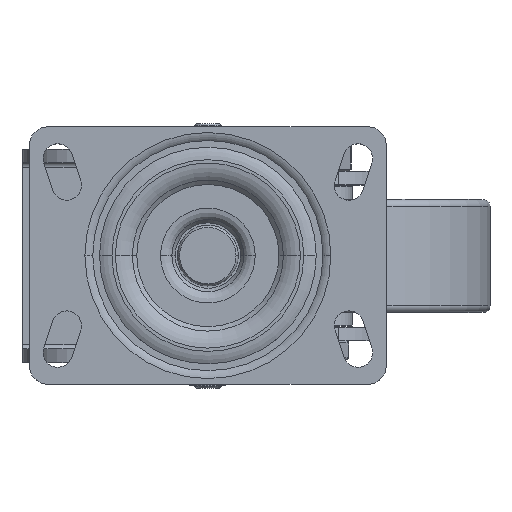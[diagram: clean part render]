
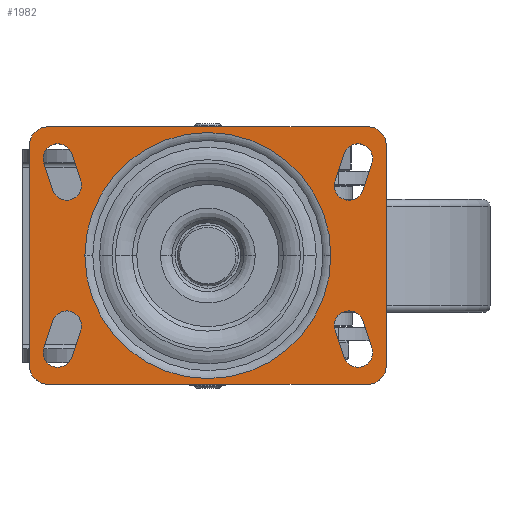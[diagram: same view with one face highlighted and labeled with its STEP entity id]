
A CAD part, top view. The second image highlights one B-rep face of the part: STEP entity #1982.
In plain terms, the highlighted planar face has unit normal (0, 0, 1).
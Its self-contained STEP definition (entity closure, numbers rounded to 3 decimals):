
#1147=PLANE('',#16140);
#1273=FACE_BOUND('',#4069,.T.);
#1274=FACE_BOUND('',#4070,.T.);
#1275=FACE_BOUND('',#4071,.T.);
#1276=FACE_BOUND('',#4072,.T.);
#1277=FACE_BOUND('',#4073,.T.);
#1278=FACE_BOUND('',#4074,.T.);
#1982=ADVANCED_FACE('',(#1273,#1274,#1275,#1276,#1277,#1278),#1147,.T.);
#4069=EDGE_LOOP('',(#8425,#8426,#8427,#8428,#8429,#8430,#8431,#8432));
#4070=EDGE_LOOP('',(#8433,#8434));
#4071=EDGE_LOOP('',(#8435,#8436,#8437,#8438));
#4072=EDGE_LOOP('',(#8439,#8440,#8441,#8442));
#4073=EDGE_LOOP('',(#8443,#8444,#8445,#8446));
#4074=EDGE_LOOP('',(#8447,#8448,#8449,#8450));
#4899=CIRCLE('',#16125,8.);
#4900=CIRCLE('',#16127,8.);
#4901=CIRCLE('',#16128,8.);
#4902=CIRCLE('',#16129,8.);
#4903=CIRCLE('',#16130,54.5);
#4904=CIRCLE('',#16131,54.5);
#4905=CIRCLE('',#16132,6.5);
#4906=CIRCLE('',#16133,6.5);
#4907=CIRCLE('',#16134,6.5);
#4908=CIRCLE('',#16135,6.5);
#4909=CIRCLE('',#16136,6.5);
#4910=CIRCLE('',#16137,6.5);
#4911=CIRCLE('',#16138,6.5);
#4912=CIRCLE('',#16139,6.5);
#8425=ORIENTED_EDGE('',*,*,#12536,.F.);
#8426=ORIENTED_EDGE('',*,*,#12537,.T.);
#8427=ORIENTED_EDGE('',*,*,#12538,.F.);
#8428=ORIENTED_EDGE('',*,*,#12539,.T.);
#8429=ORIENTED_EDGE('',*,*,#12540,.F.);
#8430=ORIENTED_EDGE('',*,*,#12541,.T.);
#8431=ORIENTED_EDGE('',*,*,#12542,.F.);
#8432=ORIENTED_EDGE('',*,*,#12535,.T.);
#8433=ORIENTED_EDGE('',*,*,#12543,.T.);
#8434=ORIENTED_EDGE('',*,*,#12544,.F.);
#8435=ORIENTED_EDGE('',*,*,#12545,.F.);
#8436=ORIENTED_EDGE('',*,*,#12546,.F.);
#8437=ORIENTED_EDGE('',*,*,#12547,.F.);
#8438=ORIENTED_EDGE('',*,*,#12548,.F.);
#8439=ORIENTED_EDGE('',*,*,#12549,.F.);
#8440=ORIENTED_EDGE('',*,*,#12550,.F.);
#8441=ORIENTED_EDGE('',*,*,#12551,.F.);
#8442=ORIENTED_EDGE('',*,*,#12552,.F.);
#8443=ORIENTED_EDGE('',*,*,#12553,.F.);
#8444=ORIENTED_EDGE('',*,*,#12554,.F.);
#8445=ORIENTED_EDGE('',*,*,#12555,.F.);
#8446=ORIENTED_EDGE('',*,*,#12556,.F.);
#8447=ORIENTED_EDGE('',*,*,#12557,.F.);
#8448=ORIENTED_EDGE('',*,*,#12558,.F.);
#8449=ORIENTED_EDGE('',*,*,#12559,.F.);
#8450=ORIENTED_EDGE('',*,*,#12560,.F.);
#10537=VERTEX_POINT('',#29809);
#10538=VERTEX_POINT('',#29811);
#10539=VERTEX_POINT('',#29815);
#10540=VERTEX_POINT('',#29817);
#10541=VERTEX_POINT('',#29819);
#10542=VERTEX_POINT('',#29821);
#10543=VERTEX_POINT('',#29823);
#10544=VERTEX_POINT('',#29825);
#10545=VERTEX_POINT('',#29828);
#10546=VERTEX_POINT('',#29829);
#10547=VERTEX_POINT('',#29832);
#10548=VERTEX_POINT('',#29833);
#10549=VERTEX_POINT('',#29835);
#10550=VERTEX_POINT('',#29837);
#10551=VERTEX_POINT('',#29840);
#10552=VERTEX_POINT('',#29841);
#10553=VERTEX_POINT('',#29843);
#10554=VERTEX_POINT('',#29845);
#10555=VERTEX_POINT('',#29848);
#10556=VERTEX_POINT('',#29849);
#10557=VERTEX_POINT('',#29851);
#10558=VERTEX_POINT('',#29853);
#10559=VERTEX_POINT('',#29856);
#10560=VERTEX_POINT('',#29857);
#10561=VERTEX_POINT('',#29859);
#10562=VERTEX_POINT('',#29861);
#12535=EDGE_CURVE('',#10537,#10538,#4899,.T.);
#12536=EDGE_CURVE('',#10539,#10538,#13860,.T.);
#12537=EDGE_CURVE('',#10539,#10540,#4900,.T.);
#12538=EDGE_CURVE('',#10541,#10540,#13861,.T.);
#12539=EDGE_CURVE('',#10541,#10542,#4901,.T.);
#12540=EDGE_CURVE('',#10543,#10542,#13862,.T.);
#12541=EDGE_CURVE('',#10543,#10544,#4902,.T.);
#12542=EDGE_CURVE('',#10537,#10544,#13863,.T.);
#12543=EDGE_CURVE('',#10545,#10546,#4903,.T.);
#12544=EDGE_CURVE('',#10545,#10546,#4904,.T.);
#12545=EDGE_CURVE('',#10547,#10548,#4905,.T.);
#12546=EDGE_CURVE('',#10549,#10547,#13864,.T.);
#12547=EDGE_CURVE('',#10550,#10549,#4906,.T.);
#12548=EDGE_CURVE('',#10548,#10550,#13865,.T.);
#12549=EDGE_CURVE('',#10551,#10552,#13866,.T.);
#12550=EDGE_CURVE('',#10553,#10551,#4907,.T.);
#12551=EDGE_CURVE('',#10554,#10553,#13867,.T.);
#12552=EDGE_CURVE('',#10552,#10554,#4908,.T.);
#12553=EDGE_CURVE('',#10555,#10556,#13868,.T.);
#12554=EDGE_CURVE('',#10557,#10555,#4909,.T.);
#12555=EDGE_CURVE('',#10558,#10557,#13869,.T.);
#12556=EDGE_CURVE('',#10556,#10558,#4910,.T.);
#12557=EDGE_CURVE('',#10559,#10560,#4911,.T.);
#12558=EDGE_CURVE('',#10561,#10559,#13870,.T.);
#12559=EDGE_CURVE('',#10562,#10561,#4912,.T.);
#12560=EDGE_CURVE('',#10560,#10562,#13871,.T.);
#13860=LINE('',#29814,#14799);
#13861=LINE('',#29818,#14800);
#13862=LINE('',#29822,#14801);
#13863=LINE('',#29826,#14802);
#13864=LINE('',#29834,#14803);
#13865=LINE('',#29838,#14804);
#13866=LINE('',#29839,#14805);
#13867=LINE('',#29844,#14806);
#13868=LINE('',#29847,#14807);
#13869=LINE('',#29852,#14808);
#13870=LINE('',#29858,#14809);
#13871=LINE('',#29862,#14810);
#14799=VECTOR('',#19665,1.);
#14800=VECTOR('',#19668,1.);
#14801=VECTOR('',#19671,1.);
#14802=VECTOR('',#19674,1.);
#14803=VECTOR('',#19681,1.);
#14804=VECTOR('',#19684,1.);
#14805=VECTOR('',#19685,1.);
#14806=VECTOR('',#19688,1.);
#14807=VECTOR('',#19691,1.);
#14808=VECTOR('',#19694,1.);
#14809=VECTOR('',#19699,1.);
#14810=VECTOR('',#19702,1.);
#16125=AXIS2_PLACEMENT_3D('',#29812,#19661,#19662);
#16127=AXIS2_PLACEMENT_3D('',#29816,#19666,#19667);
#16128=AXIS2_PLACEMENT_3D('',#29820,#19669,#19670);
#16129=AXIS2_PLACEMENT_3D('',#29824,#19672,#19673);
#16130=AXIS2_PLACEMENT_3D('',#29827,#19675,#19676);
#16131=AXIS2_PLACEMENT_3D('',#29830,#19677,#19678);
#16132=AXIS2_PLACEMENT_3D('',#29831,#19679,#19680);
#16133=AXIS2_PLACEMENT_3D('',#29836,#19682,#19683);
#16134=AXIS2_PLACEMENT_3D('',#29842,#19686,#19687);
#16135=AXIS2_PLACEMENT_3D('',#29846,#19689,#19690);
#16136=AXIS2_PLACEMENT_3D('',#29850,#19692,#19693);
#16137=AXIS2_PLACEMENT_3D('',#29854,#19695,#19696);
#16138=AXIS2_PLACEMENT_3D('',#29855,#19697,#19698);
#16139=AXIS2_PLACEMENT_3D('',#29860,#19700,#19701);
#16140=AXIS2_PLACEMENT_3D('',#29863,#19703,#19704);
#19661=DIRECTION('',(0.,0.,1.));
#19662=DIRECTION('',(0.,-1.,0.));
#19665=DIRECTION('',(0.,-1.,0.));
#19666=DIRECTION('',(0.,0.,1.));
#19667=DIRECTION('',(1.,0.,0.));
#19668=DIRECTION('',(1.,0.,0.));
#19669=DIRECTION('',(0.,0.,1.));
#19670=DIRECTION('',(0.,1.,0.));
#19671=DIRECTION('',(0.,1.,0.));
#19672=DIRECTION('',(0.,0.,1.));
#19673=DIRECTION('',(-1.,0.,0.));
#19674=DIRECTION('',(-1.,0.,0.));
#19675=DIRECTION('',(0.,0.,-1.));
#19676=DIRECTION('',(1.,0.,0.));
#19677=DIRECTION('',(0.,0.,1.));
#19678=DIRECTION('',(1.,0.,0.));
#19679=DIRECTION('',(0.,0.,1.));
#19680=DIRECTION('',(0.949,0.316,0.));
#19681=DIRECTION('',(-0.316,0.949,0.));
#19682=DIRECTION('',(0.,0.,1.));
#19683=DIRECTION('',(-0.949,-0.316,0.));
#19684=DIRECTION('',(0.316,-0.949,0.));
#19685=DIRECTION('',(0.316,0.949,0.));
#19686=DIRECTION('',(0.,0.,1.));
#19687=DIRECTION('',(-0.949,0.316,0.));
#19688=DIRECTION('',(-0.316,-0.949,0.));
#19689=DIRECTION('',(0.,0.,1.));
#19690=DIRECTION('',(0.949,-0.316,0.));
#19691=DIRECTION('',(-0.316,-0.949,0.));
#19692=DIRECTION('',(0.,0.,1.));
#19693=DIRECTION('',(0.949,-0.316,0.));
#19694=DIRECTION('',(0.316,0.949,0.));
#19695=DIRECTION('',(0.,0.,1.));
#19696=DIRECTION('',(-0.949,0.316,0.));
#19697=DIRECTION('',(0.,0.,1.));
#19698=DIRECTION('',(-0.949,-0.316,0.));
#19699=DIRECTION('',(0.316,-0.949,0.));
#19700=DIRECTION('',(0.,0.,1.));
#19701=DIRECTION('',(0.949,0.316,0.));
#19702=DIRECTION('',(-0.316,0.949,0.));
#19703=DIRECTION('',(0.,0.,1.));
#19704=DIRECTION('',(1.,0.,0.));
#29809=CARTESIAN_POINT('',(71.,-57.,0.));
#29811=CARTESIAN_POINT('',(79.,-49.,0.));
#29812=CARTESIAN_POINT('',(71.,-49.,0.));
#29814=CARTESIAN_POINT('',(79.,49.,0.));
#29815=CARTESIAN_POINT('',(79.,49.,0.));
#29816=CARTESIAN_POINT('',(71.,49.,0.));
#29817=CARTESIAN_POINT('',(71.,57.,0.));
#29818=CARTESIAN_POINT('',(-71.,57.,0.));
#29819=CARTESIAN_POINT('',(-71.,57.,0.));
#29820=CARTESIAN_POINT('',(-71.,49.,0.));
#29821=CARTESIAN_POINT('',(-79.,49.,0.));
#29822=CARTESIAN_POINT('',(-79.,-49.,0.));
#29823=CARTESIAN_POINT('',(-79.,-49.,0.));
#29824=CARTESIAN_POINT('',(-71.,-49.,0.));
#29825=CARTESIAN_POINT('',(-71.,-57.,0.));
#29826=CARTESIAN_POINT('',(71.,-57.,0.));
#29827=CARTESIAN_POINT('',(0.,0.,0.));
#29828=CARTESIAN_POINT('',(54.5,0.,0.));
#29829=CARTESIAN_POINT('',(-54.5,0.,0.));
#29830=CARTESIAN_POINT('',(0.,0.,0.));
#29831=CARTESIAN_POINT('',(-66.5,43.,0.));
#29832=CARTESIAN_POINT('',(-60.334,45.055,0.));
#29833=CARTESIAN_POINT('',(-72.666,40.945,0.));
#29834=CARTESIAN_POINT('',(-56.334,33.055,0.));
#29835=CARTESIAN_POINT('',(-56.334,33.055,0.));
#29836=CARTESIAN_POINT('',(-62.5,31.,0.));
#29837=CARTESIAN_POINT('',(-68.666,28.945,0.));
#29838=CARTESIAN_POINT('',(-72.666,40.945,0.));
#29839=CARTESIAN_POINT('',(68.666,28.945,0.));
#29840=CARTESIAN_POINT('',(68.666,28.945,0.));
#29841=CARTESIAN_POINT('',(72.666,40.945,0.));
#29842=CARTESIAN_POINT('',(62.5,31.,0.));
#29843=CARTESIAN_POINT('',(56.334,33.055,0.));
#29844=CARTESIAN_POINT('',(60.334,45.055,0.));
#29845=CARTESIAN_POINT('',(60.334,45.055,0.));
#29846=CARTESIAN_POINT('',(66.5,43.,0.));
#29847=CARTESIAN_POINT('',(-68.666,-28.945,0.));
#29848=CARTESIAN_POINT('',(-68.666,-28.945,0.));
#29849=CARTESIAN_POINT('',(-72.666,-40.945,0.));
#29850=CARTESIAN_POINT('',(-62.5,-31.,0.));
#29851=CARTESIAN_POINT('',(-56.334,-33.055,0.));
#29852=CARTESIAN_POINT('',(-60.334,-45.055,0.));
#29853=CARTESIAN_POINT('',(-60.334,-45.055,0.));
#29854=CARTESIAN_POINT('',(-66.5,-43.,0.));
#29855=CARTESIAN_POINT('',(66.5,-43.,0.));
#29856=CARTESIAN_POINT('',(60.334,-45.055,0.));
#29857=CARTESIAN_POINT('',(72.666,-40.945,0.));
#29858=CARTESIAN_POINT('',(56.334,-33.055,0.));
#29859=CARTESIAN_POINT('',(56.334,-33.055,0.));
#29860=CARTESIAN_POINT('',(62.5,-31.,0.));
#29861=CARTESIAN_POINT('',(68.666,-28.945,0.));
#29862=CARTESIAN_POINT('',(72.666,-40.945,0.));
#29863=CARTESIAN_POINT('',(0.,0.,0.));
